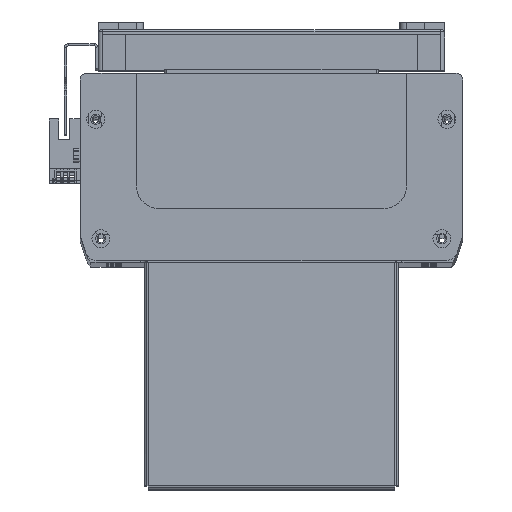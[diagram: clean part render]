
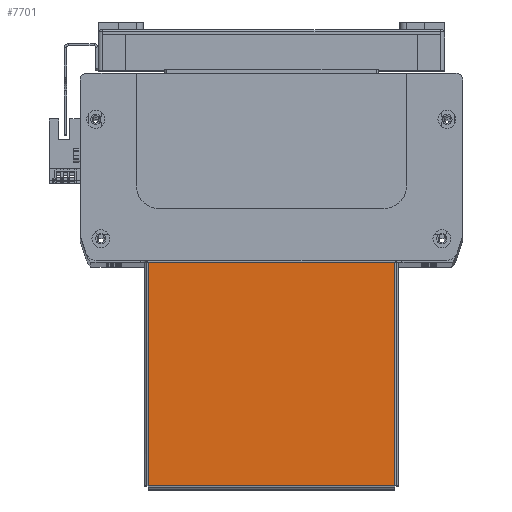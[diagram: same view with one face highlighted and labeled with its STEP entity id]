
A CAD part, top view. The second image highlights one B-rep face of the part: STEP entity #7701.
In plain terms, the highlighted planar face has unit normal (0, 0, 1).
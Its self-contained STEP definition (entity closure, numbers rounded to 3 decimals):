
#7701 = ADVANCED_FACE ( 'NONE', ( #23084 ), #24741, .T. ) ;
#10508 = ORIENTED_EDGE ( 'NONE', *, *, #33172, .T. ) ;
#10509 = ORIENTED_EDGE ( 'NONE', *, *, #33154, .T. ) ;
#10562 = ORIENTED_EDGE ( 'NONE', *, *, #33168, .T. ) ;
#10588 = ORIENTED_EDGE ( 'NONE', *, *, #33220, .T. ) ;
#18709 = LINE ( 'NONE', #39805, #18732 ) ;
#18723 = LINE ( 'NONE', #39867, #18746 ) ;
#18732 = VECTOR ( 'NONE', #39825, 1000. ) ;
#18740 = VECTOR ( 'NONE', #39852, 1000. ) ;
#18746 = VECTOR ( 'NONE', #39870, 1000. ) ;
#18756 = LINE ( 'NONE', #39857, #18740 ) ;
#18793 = LINE ( 'NONE', #37963, #18817 ) ;
#18817 = VECTOR ( 'NONE', #38980, 1000. ) ;
#19458 = EDGE_LOOP ( 'NONE', ( #10562, #10588, #10508, #10509 ) ) ;
#23084 = FACE_OUTER_BOUND ( 'NONE', #19458, .T. ) ;
#24741 = PLANE ( 'NONE',  #26077 ) ;
#24743 = DIRECTION ( 'NONE',  ( 1., 0., 0. ) ) ;
#24768 = DIRECTION ( 'NONE',  ( 0., 0., 1. ) ) ;
#24783 = CARTESIAN_POINT ( 'NONE',  ( 0., 0., 0. ) ) ;
#26077 = AXIS2_PLACEMENT_3D ( 'NONE', #24783, #24768, #24743 ) ;
#31351 = VERTEX_POINT ( 'NONE', #38369 ) ;
#31388 = VERTEX_POINT ( 'NONE', #38384 ) ;
#31433 = VERTEX_POINT ( 'NONE', #38399 ) ;
#31507 = VERTEX_POINT ( 'NONE', #38542 ) ;
#33154 = EDGE_CURVE ( 'NONE', #31351, #31388, #18709, .T. ) ;
#33168 = EDGE_CURVE ( 'NONE', #31388, #31433, #18723, .T. ) ;
#33172 = EDGE_CURVE ( 'NONE', #31507, #31351, #18756, .T. ) ;
#33220 = EDGE_CURVE ( 'NONE', #31433, #31507, #18793, .T. ) ;
#37963 = CARTESIAN_POINT ( 'NONE',  ( -54.793, -49.263, 0. ) ) ;
#38369 = CARTESIAN_POINT ( 'NONE',  ( 54.763, 50., 0. ) ) ;
#38384 = CARTESIAN_POINT ( 'NONE',  ( -54.763, 50., 0. ) ) ;
#38399 = CARTESIAN_POINT ( 'NONE',  ( -54.763, -49.263, 0. ) ) ;
#38542 = CARTESIAN_POINT ( 'NONE',  ( 54.763, -49.263, 0. ) ) ;
#38980 = DIRECTION ( 'NONE',  ( 1., 0., 0. ) ) ;
#39805 = CARTESIAN_POINT ( 'NONE',  ( -55.5, 50., 0. ) ) ;
#39825 = DIRECTION ( 'NONE',  ( -1., 0., 0. ) ) ;
#39852 = DIRECTION ( 'NONE',  ( 0., 1., 0. ) ) ;
#39857 = CARTESIAN_POINT ( 'NONE',  ( 54.763, -49.293, 0. ) ) ;
#39867 = CARTESIAN_POINT ( 'NONE',  ( -54.763, 50., 0. ) ) ;
#39870 = DIRECTION ( 'NONE',  ( 0., -1., 0. ) ) ;
